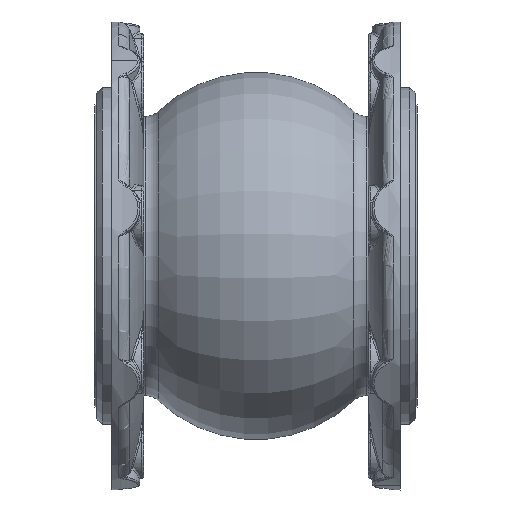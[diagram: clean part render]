
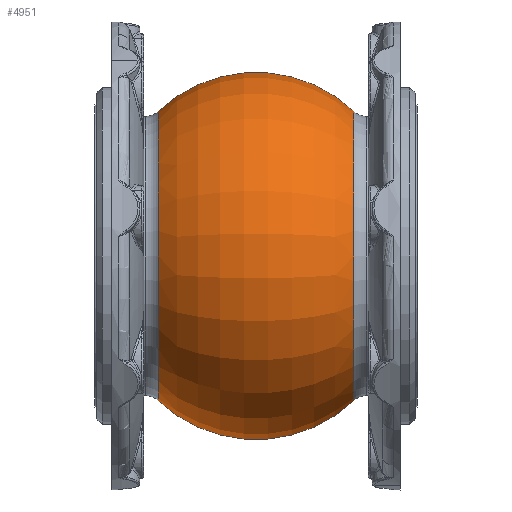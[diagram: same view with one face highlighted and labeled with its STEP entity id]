
A CAD part, left-side view. The second image highlights one B-rep face of the part: STEP entity #4951.
In plain terms, the highlighted toroidal (fillet/blend) face has major radius 21.929 mm and minor radius 76.084 mm.
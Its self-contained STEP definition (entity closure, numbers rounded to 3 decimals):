
#264 = CIRCLE ( 'NONE', #16647, 76.084 ) ;
#1155 = TOROIDAL_SURFACE ( 'NONE', #14195, 21.929, 76.084 ) ;
#2410 = CARTESIAN_POINT ( 'NONE',  ( 0., 137.253, -77.231 ) ) ;
#2523 = CARTESIAN_POINT ( 'NONE',  ( 0., 32.747, -77.231 ) ) ;
#2820 = ORIENTED_EDGE ( 'NONE', *, *, #15841, .T. ) ;
#3347 = DIRECTION ( 'NONE',  ( 0., -1., 0. ) ) ;
#3807 = EDGE_CURVE ( 'NONE', #11548, #8517, #18715, .T. ) ;
#4023 = VERTEX_POINT ( 'NONE', #2523 ) ;
#4769 = CARTESIAN_POINT ( 'NONE',  ( 0., 85., 0. ) ) ;
#4818 = EDGE_CURVE ( 'NONE', #9504, #4023, #264, .T. ) ;
#4951 = ADVANCED_FACE ( 'NONE', ( #10749 ), #1155, .T. ) ;
#5525 = DIRECTION ( 'NONE',  ( 0., 0., 1. ) ) ;
#6077 = DIRECTION ( 'NONE',  ( 0., -1., 0. ) ) ;
#6718 = DIRECTION ( 'NONE',  ( 0., 0., -1. ) ) ;
#7847 = ORIENTED_EDGE ( 'NONE', *, *, #16789, .F. ) ;
#8517 = VERTEX_POINT ( 'NONE', #9978 ) ;
#9410 = DIRECTION ( 'NONE',  ( 0., 0., -1. ) ) ;
#9504 = VERTEX_POINT ( 'NONE', #2410 ) ;
#9978 = CARTESIAN_POINT ( 'NONE',  ( 0., 32.747, 77.231 ) ) ;
#10005 = EDGE_LOOP ( 'NONE', ( #15643, #2820, #15277, #7847 ) ) ;
#10749 = FACE_OUTER_BOUND ( 'NONE', #10005, .T. ) ;
#10817 = CARTESIAN_POINT ( 'NONE',  ( 0., 32.747, 0. ) ) ;
#10993 = DIRECTION ( 'NONE',  ( 0., -1., 0. ) ) ;
#11135 = CARTESIAN_POINT ( 'NONE',  ( 0., 85., -21.929 ) ) ;
#11325 = CIRCLE ( 'NONE', #13780, 77.231 ) ;
#11369 = AXIS2_PLACEMENT_3D ( 'NONE', #14458, #6077, #14757 ) ;
#11548 = VERTEX_POINT ( 'NONE', #12286 ) ;
#12286 = CARTESIAN_POINT ( 'NONE',  ( 0., 137.253, 77.231 ) ) ;
#12475 = DIRECTION ( 'NONE',  ( -1., 0., 0. ) ) ;
#13745 = DIRECTION ( 'NONE',  ( 0., 0., -1. ) ) ;
#13780 = AXIS2_PLACEMENT_3D ( 'NONE', #10817, #10993, #6718 ) ;
#14195 = AXIS2_PLACEMENT_3D ( 'NONE', #4769, #3347, #9410 ) ;
#14458 = CARTESIAN_POINT ( 'NONE',  ( 0., 137.253, 0. ) ) ;
#14757 = DIRECTION ( 'NONE',  ( 0., 0., -1. ) ) ;
#15277 = ORIENTED_EDGE ( 'NONE', *, *, #4818, .T. ) ;
#15629 = CIRCLE ( 'NONE', #11369, 77.231 ) ;
#15643 = ORIENTED_EDGE ( 'NONE', *, *, #3807, .F. ) ;
#15657 = AXIS2_PLACEMENT_3D ( 'NONE', #16611, #16794, #13745 ) ;
#15841 = EDGE_CURVE ( 'NONE', #11548, #9504, #15629, .T. ) ;
#16611 = CARTESIAN_POINT ( 'NONE',  ( 0., 85., 21.929 ) ) ;
#16647 = AXIS2_PLACEMENT_3D ( 'NONE', #11135, #12475, #5525 ) ;
#16789 = EDGE_CURVE ( 'NONE', #8517, #4023, #11325, .T. ) ;
#16794 = DIRECTION ( 'NONE',  ( 1., 0., 0. ) ) ;
#18715 = CIRCLE ( 'NONE', #15657, 76.084 ) ;
